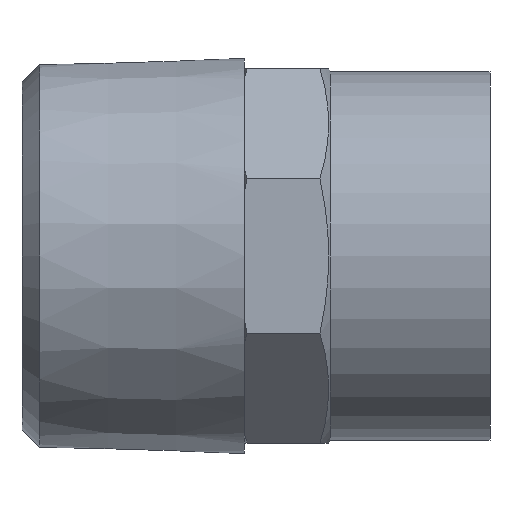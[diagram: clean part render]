
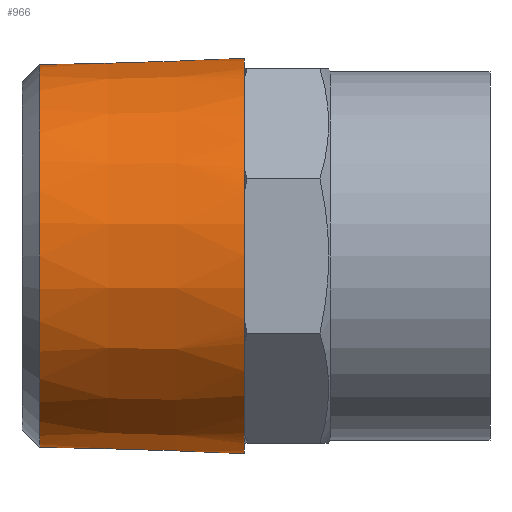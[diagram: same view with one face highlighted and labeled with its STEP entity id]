
A CAD part, front view. The second image highlights one B-rep face of the part: STEP entity #966.
In plain terms, the highlighted conical face has half-angle 1.79 degrees and reference radius 16.597 mm.
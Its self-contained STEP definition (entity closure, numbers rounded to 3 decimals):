
#75=CARTESIAN_POINT('',(19.0,15.148,-7.48));
#76=VERTEX_POINT('',#75);
#121=CARTESIAN_POINT('',(19.0,7.48,-15.148));
#122=VERTEX_POINT('',#121);
#150=CARTESIAN_POINT('',(19.0,5.422,-16.));
#151=VERTEX_POINT('',#150);
#189=CARTESIAN_POINT('',(19.0,-5.422,-16.));
#190=VERTEX_POINT('',#189);
#218=CARTESIAN_POINT('',(19.0,-7.48,-15.148));
#219=VERTEX_POINT('',#218);
#257=CARTESIAN_POINT('',(19.0,-15.148,-7.48));
#258=VERTEX_POINT('',#257);
#286=CARTESIAN_POINT('',(19.0,-16.,-5.422));
#287=VERTEX_POINT('',#286);
#325=CARTESIAN_POINT('',(19.0,-16.0,5.422));
#326=VERTEX_POINT('',#325);
#354=CARTESIAN_POINT('',(19.0,0.0,0.0));
#355=DIRECTION('',(1.0,0.0,0.0));
#356=DIRECTION('',(0.0,1.0,0.0));
#357=AXIS2_PLACEMENT_3D('',#354,#355,#356);
#358=CIRCLE('',#357,16.894);
#359=EDGE_CURVE('',#190,#151,#358,.T.);
#370=CARTESIAN_POINT('',(19.0,0.0,0.0));
#371=DIRECTION('',(1.0,0.0,0.0));
#372=DIRECTION('',(0.0,1.0,0.0));
#373=AXIS2_PLACEMENT_3D('',#370,#371,#372);
#374=CIRCLE('',#373,16.894);
#375=EDGE_CURVE('',#258,#219,#374,.T.);
#386=CARTESIAN_POINT('',(19.0,0.0,0.0));
#387=DIRECTION('',(1.0,0.0,0.0));
#388=DIRECTION('',(0.0,1.0,0.0));
#389=AXIS2_PLACEMENT_3D('',#386,#387,#388);
#390=CIRCLE('',#389,16.894);
#391=EDGE_CURVE('',#326,#287,#390,.T.);
#402=CARTESIAN_POINT('',(19.0,-7.48,15.148));
#403=VERTEX_POINT('',#402);
#404=CARTESIAN_POINT('',(19.0,-15.148,7.48));
#405=VERTEX_POINT('',#404);
#406=CARTESIAN_POINT('',(19.0,0.0,0.0));
#407=DIRECTION('',(1.0,0.0,0.0));
#408=DIRECTION('',(0.0,1.0,0.0));
#409=AXIS2_PLACEMENT_3D('',#406,#407,#408);
#410=CIRCLE('',#409,16.894);
#411=EDGE_CURVE('',#403,#405,#410,.T.);
#427=CARTESIAN_POINT('',(19.0,15.148,7.48));
#428=VERTEX_POINT('',#427);
#429=CARTESIAN_POINT('',(19.0,7.48,15.148));
#430=VERTEX_POINT('',#429);
#431=CARTESIAN_POINT('',(19.0,0.0,0.0));
#432=DIRECTION('',(1.0,0.0,0.0));
#433=DIRECTION('',(0.0,1.0,0.0));
#434=AXIS2_PLACEMENT_3D('',#431,#432,#433);
#435=CIRCLE('',#434,16.894);
#436=EDGE_CURVE('',#428,#430,#435,.T.);
#452=CARTESIAN_POINT('',(19.0,16.,-5.422));
#453=VERTEX_POINT('',#452);
#454=CARTESIAN_POINT('',(19.0,16.,5.422));
#455=VERTEX_POINT('',#454);
#456=CARTESIAN_POINT('',(19.0,0.0,0.0));
#457=DIRECTION('',(1.0,0.0,0.0));
#458=DIRECTION('',(0.0,1.0,0.0));
#459=AXIS2_PLACEMENT_3D('',#456,#457,#458);
#460=CIRCLE('',#459,16.894);
#461=EDGE_CURVE('',#453,#455,#460,.T.);
#477=CARTESIAN_POINT('',(19.0,0.0,0.0));
#478=DIRECTION('',(1.0,0.0,0.0));
#479=DIRECTION('',(0.0,1.0,0.0));
#480=AXIS2_PLACEMENT_3D('',#477,#478,#479);
#481=CIRCLE('',#480,16.894);
#482=EDGE_CURVE('',#122,#76,#481,.T.);
#671=CARTESIAN_POINT('',(19.0,-5.422,16.0));
#672=VERTEX_POINT('',#671);
#686=CARTESIAN_POINT('',(19.0,0.0,0.0));
#687=DIRECTION('',(1.0,0.0,0.0));
#688=DIRECTION('',(0.0,1.0,0.0));
#689=AXIS2_PLACEMENT_3D('',#686,#687,#688);
#690=CIRCLE('',#689,16.894);
#691=EDGE_CURVE('',#672,#403,#690,.T.);
#703=CARTESIAN_POINT('',(19.0,0.0,0.0));
#704=DIRECTION('',(1.0,0.0,0.0));
#705=DIRECTION('',(0.0,1.0,0.0));
#706=AXIS2_PLACEMENT_3D('',#703,#704,#705);
#707=CIRCLE('',#706,16.894);
#708=EDGE_CURVE('',#405,#326,#707,.T.);
#720=CARTESIAN_POINT('',(19.0,0.0,0.0));
#721=DIRECTION('',(1.0,0.0,0.0));
#722=DIRECTION('',(0.0,1.0,0.0));
#723=AXIS2_PLACEMENT_3D('',#720,#721,#722);
#724=CIRCLE('',#723,16.894);
#725=EDGE_CURVE('',#287,#258,#724,.T.);
#736=CARTESIAN_POINT('',(19.0,5.422,16.));
#737=VERTEX_POINT('',#736);
#738=CARTESIAN_POINT('',(19.0,0.0,0.0));
#739=DIRECTION('',(1.0,0.0,0.0));
#740=DIRECTION('',(0.0,1.0,0.0));
#741=AXIS2_PLACEMENT_3D('',#738,#739,#740);
#742=CIRCLE('',#741,16.894);
#743=EDGE_CURVE('',#430,#737,#742,.T.);
#768=CARTESIAN_POINT('',(19.0,0.0,0.0));
#769=DIRECTION('',(1.0,0.0,0.0));
#770=DIRECTION('',(0.0,1.0,0.0));
#771=AXIS2_PLACEMENT_3D('',#768,#769,#770);
#772=CIRCLE('',#771,16.894);
#773=EDGE_CURVE('',#219,#190,#772,.T.);
#785=CARTESIAN_POINT('',(19.0,0.0,0.0));
#786=DIRECTION('',(1.0,0.0,0.0));
#787=DIRECTION('',(0.0,1.0,0.0));
#788=AXIS2_PLACEMENT_3D('',#785,#786,#787);
#789=CIRCLE('',#788,16.894);
#790=EDGE_CURVE('',#151,#122,#789,.T.);
#801=CARTESIAN_POINT('',(19.0,0.0,0.0));
#802=DIRECTION('',(1.0,0.0,0.0));
#803=DIRECTION('',(0.0,1.0,0.0));
#804=AXIS2_PLACEMENT_3D('',#801,#802,#803);
#805=CIRCLE('',#804,16.894);
#806=EDGE_CURVE('',#455,#428,#805,.T.);
#848=CARTESIAN_POINT('',(19.0,0.0,0.0));
#849=DIRECTION('',(1.0,0.0,0.0));
#850=DIRECTION('',(0.0,1.0,0.0));
#851=AXIS2_PLACEMENT_3D('',#848,#849,#850);
#852=CIRCLE('',#851,16.894);
#853=EDGE_CURVE('',#737,#672,#852,.T.);
#902=CARTESIAN_POINT('',(1.499,16.347,0.));
#903=VERTEX_POINT('',#902);
#904=CARTESIAN_POINT('',(1.499,0.0,0.));
#905=DIRECTION('',(-1.0,0.0,0.0));
#906=DIRECTION('',(0.0,-1.0,0.0));
#907=AXIS2_PLACEMENT_3D('',#904,#905,#906);
#908=CIRCLE('',#907,16.347);
#909=EDGE_CURVE('',#903,#903,#908,.T.);
#934=CARTESIAN_POINT('',(9.5,0.0,0.0));
#935=DIRECTION('',(1.0,0.0,0.0));
#936=DIRECTION('',(0.0,1.0,0.0));
#937=AXIS2_PLACEMENT_3D('',#934,#935,#936);
#938=CONICAL_SURFACE('',#937,16.597,1.79);
#939=ORIENTED_EDGE('',*,*,#691,.F.);
#940=ORIENTED_EDGE('',*,*,#853,.F.);
#941=ORIENTED_EDGE('',*,*,#743,.F.);
#942=ORIENTED_EDGE('',*,*,#436,.F.);
#943=ORIENTED_EDGE('',*,*,#806,.F.);
#944=ORIENTED_EDGE('',*,*,#461,.F.);
#945=CARTESIAN_POINT('',(19.0,0.0,0.0));
#946=DIRECTION('',(1.0,0.0,0.0));
#947=DIRECTION('',(0.0,1.0,0.0));
#948=AXIS2_PLACEMENT_3D('',#945,#946,#947);
#949=CIRCLE('',#948,16.894);
#950=EDGE_CURVE('',#76,#453,#949,.T.);
#951=ORIENTED_EDGE('',*,*,#950,.F.);
#952=ORIENTED_EDGE('',*,*,#482,.F.);
#953=ORIENTED_EDGE('',*,*,#790,.F.);
#954=ORIENTED_EDGE('',*,*,#359,.F.);
#955=ORIENTED_EDGE('',*,*,#773,.F.);
#956=ORIENTED_EDGE('',*,*,#375,.F.);
#957=ORIENTED_EDGE('',*,*,#725,.F.);
#958=ORIENTED_EDGE('',*,*,#391,.F.);
#959=ORIENTED_EDGE('',*,*,#708,.F.);
#960=ORIENTED_EDGE('',*,*,#411,.F.);
#961=EDGE_LOOP('',(#939,#940,#941,#942,#943,#944,#951,#952,#953,#954,#955,#956,#957,#958,#959,#960));
#962=FACE_OUTER_BOUND('',#961,.T.);
#963=ORIENTED_EDGE('',*,*,#909,.F.);
#964=EDGE_LOOP('',(#963));
#965=FACE_BOUND('',#964,.T.);
#966=ADVANCED_FACE('',(#962,#965),#938,.T.);
